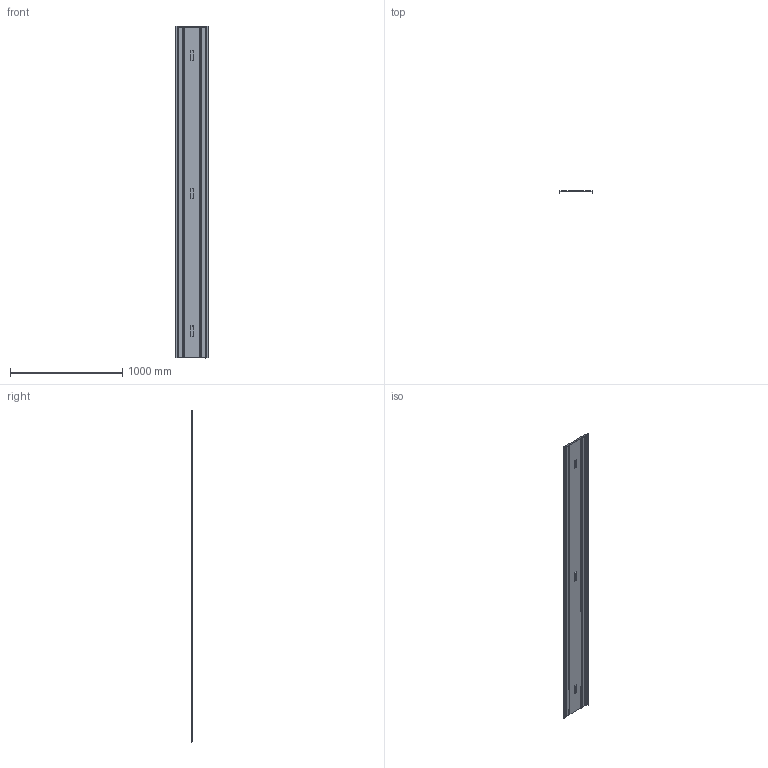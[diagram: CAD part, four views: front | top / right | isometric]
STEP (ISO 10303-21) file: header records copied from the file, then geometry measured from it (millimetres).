
FILE_DESCRIPTION (( 'STEP AP203' ), '1' );
FILE_NAME ('Tapa TERE 300 300.step', '2023-07-27T18:59:36', ( '' ), ( '' ), 'SwSTEP 2.0', 'SolidWorks 2022', '' );
FILE_SCHEMA (( 'CONFIG_CONTROL_DESIGN' ));
Length unit declared in the file: millimetre
Products named in the file (1): Tapa TERE 300 300
Bounding box: 302 x 15 x 2960 mm (x, y, z)
Volume: 788350.5 mm3; surface area: 1980133 mm2
Topology: 1 solids, 1 shells, 551 faces, 1640 edges, 1123 vertices
Faces by surface type: plane 280, bspline 129, cylinder 118, torus 24
Entity records: 27839 total; most frequent: CARTESIAN_POINT 14155, ORIENTED_EDGE 3278, DIRECTION 2130, EDGE_CURVE 1639, VERTEX_POINT 1123, LINE 886, VECTOR 886, AXIS2_PLACEMENT_3D 622
